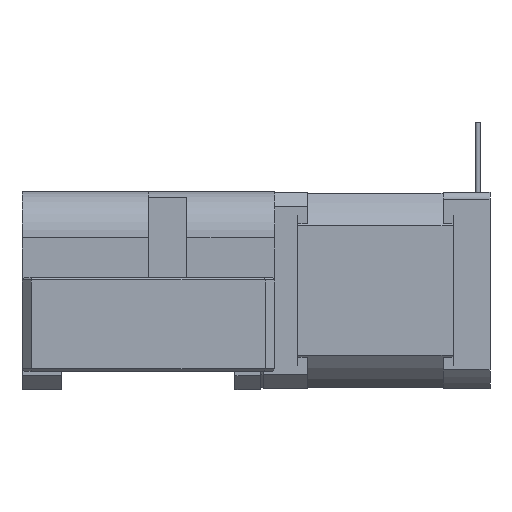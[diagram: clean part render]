
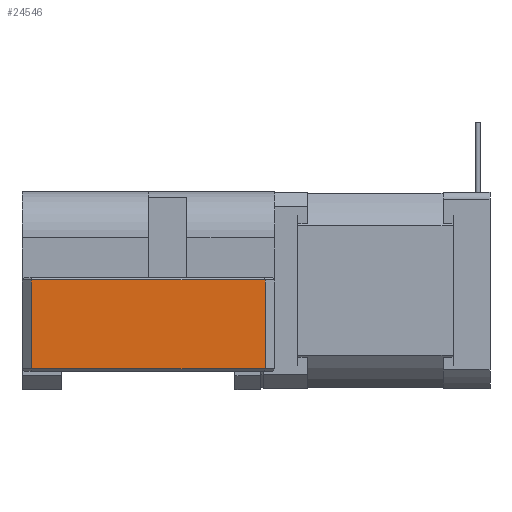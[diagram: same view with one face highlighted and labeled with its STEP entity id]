
A CAD part, front view. The second image highlights one B-rep face of the part: STEP entity #24546.
In plain terms, the highlighted planar face has unit normal (0, -1, 0).
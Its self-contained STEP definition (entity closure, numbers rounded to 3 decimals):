
#682 = CARTESIAN_POINT ( 'NONE',  ( 0., 0., 0.5 ) ) ;
#1749 = ORIENTED_EDGE ( 'NONE', *, *, #39985, .F. ) ;
#3136 = VERTEX_POINT ( 'NONE', #49496 ) ;
#6682 = ORIENTED_EDGE ( 'NONE', *, *, #27901, .T. ) ;
#9714 = DIRECTION ( 'NONE',  ( 0., 0., 1. ) ) ;
#13097 = PLANE ( 'NONE',  #42274 ) ;
#13463 = LINE ( 'NONE', #46763, #52029 ) ;
#18516 = ORIENTED_EDGE ( 'NONE', *, *, #44888, .T. ) ;
#18644 = VECTOR ( 'NONE', #50192, 1000. ) ;
#19226 = CARTESIAN_POINT ( 'NONE',  ( 25., 0., 0.5 ) ) ;
#20689 = VERTEX_POINT ( 'NONE', #57073 ) ;
#22652 = EDGE_LOOP ( 'NONE', ( #18516, #1749, #45524, #6682 ) ) ;
#23894 = VECTOR ( 'NONE', #9714, 1000. ) ;
#24546 = ADVANCED_FACE ( 'NONE', ( #55341 ), #13097, .T. ) ;
#27901 = EDGE_CURVE ( 'NONE', #33814, #3136, #32565, .T. ) ;
#30360 = VECTOR ( 'NONE', #42952, 1000. ) ;
#32296 = DIRECTION ( 'NONE',  ( -1., 0., 0. ) ) ;
#32565 = LINE ( 'NONE', #51946, #23894 ) ;
#33814 = VERTEX_POINT ( 'NONE', #19226 ) ;
#35944 = DIRECTION ( 'NONE',  ( 0., -1., 0. ) ) ;
#39985 = EDGE_CURVE ( 'NONE', #20689, #41450, #42157, .T. ) ;
#41450 = VERTEX_POINT ( 'NONE', #58457 ) ;
#42157 = LINE ( 'NONE', #60960, #18644 ) ;
#42274 = AXIS2_PLACEMENT_3D ( 'NONE', #45184, #35944, #59355 ) ;
#42952 = DIRECTION ( 'NONE',  ( 1., 0., 0. ) ) ;
#44888 = EDGE_CURVE ( 'NONE', #3136, #41450, #13463, .T. ) ;
#45184 = CARTESIAN_POINT ( 'NONE',  ( 0., 0., 0. ) ) ;
#45524 = ORIENTED_EDGE ( 'NONE', *, *, #54601, .T. ) ;
#46763 = CARTESIAN_POINT ( 'NONE',  ( 0., 0., 19.5 ) ) ;
#49496 = CARTESIAN_POINT ( 'NONE',  ( 25., 0., 19.5 ) ) ;
#50192 = DIRECTION ( 'NONE',  ( 0., 0., 1. ) ) ;
#51946 = CARTESIAN_POINT ( 'NONE',  ( 25., 0., 0. ) ) ;
#52029 = VECTOR ( 'NONE', #32296, 1000. ) ;
#54601 = EDGE_CURVE ( 'NONE', #20689, #33814, #56814, .T. ) ;
#55341 = FACE_OUTER_BOUND ( 'NONE', #22652, .T. ) ;
#56814 = LINE ( 'NONE', #682, #30360 ) ;
#57073 = CARTESIAN_POINT ( 'NONE',  ( -25., 0., 0.5 ) ) ;
#58457 = CARTESIAN_POINT ( 'NONE',  ( -25., 0., 19.5 ) ) ;
#59355 = DIRECTION ( 'NONE',  ( 0., 0., -1. ) ) ;
#60960 = CARTESIAN_POINT ( 'NONE',  ( -25., 0., 0. ) ) ;
